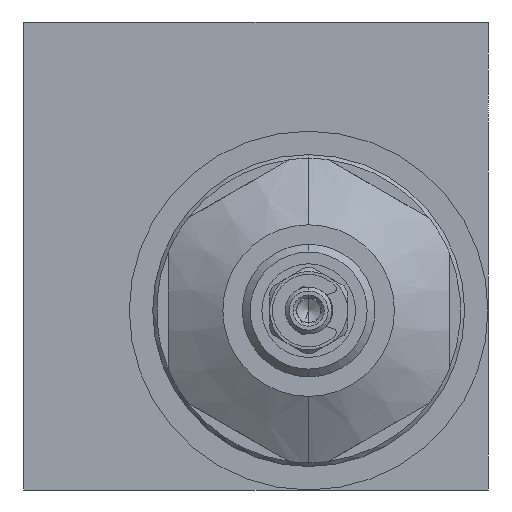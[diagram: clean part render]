
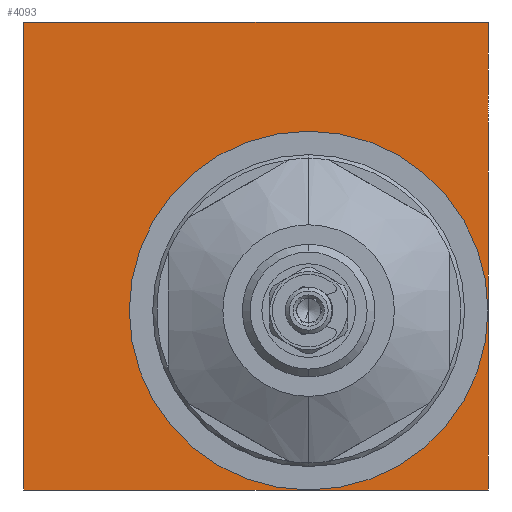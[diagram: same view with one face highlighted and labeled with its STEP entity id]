
A CAD part, left-side view. The second image highlights one B-rep face of the part: STEP entity #4093.
In plain terms, the highlighted planar face has unit normal (-1, 0, 0).
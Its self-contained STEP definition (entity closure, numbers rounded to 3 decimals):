
#257 = LINE ( 'NONE', #9466, #16114 ) ;
#390 = DIRECTION ( 'NONE',  ( 0., 1., 0. ) ) ;
#904 = AXIS2_PLACEMENT_3D ( 'NONE', #11078, #6266, #16110 ) ;
#1844 = EDGE_CURVE ( 'NONE', #14254, #3935, #13318, .T. ) ;
#1868 = DIRECTION ( 'NONE',  ( 0., 0., 1. ) ) ;
#2631 = VECTOR ( 'NONE', #10540, 1000. ) ;
#3193 = ORIENTED_EDGE ( 'NONE', *, *, #14052, .F. ) ;
#3202 = EDGE_CURVE ( 'NONE', #3935, #11303, #8155, .T. ) ;
#3263 = CIRCLE ( 'NONE', #13294, 23. ) ;
#3774 = CARTESIAN_POINT ( 'NONE',  ( 0., -29.75, 30. ) ) ;
#3842 = EDGE_CURVE ( 'NONE', #11303, #4551, #257, .T. ) ;
#3935 = VERTEX_POINT ( 'NONE', #16599 ) ;
#3961 = CIRCLE ( 'NONE', #904, 23. ) ;
#4093 = ADVANCED_FACE ( 'NONE', ( #13162, #12984 ), #12293, .T. ) ;
#4551 = VERTEX_POINT ( 'NONE', #15585 ) ;
#6266 = DIRECTION ( 'NONE',  ( -1., 0., 0. ) ) ;
#6567 = VERTEX_POINT ( 'NONE', #7157 ) ;
#7157 = CARTESIAN_POINT ( 'NONE',  ( 0., -6.75, 16. ) ) ;
#7823 = DIRECTION ( 'NONE',  ( -1., 0., 0. ) ) ;
#7957 = EDGE_CURVE ( 'NONE', #4551, #14254, #16373, .T. ) ;
#8155 = LINE ( 'NONE', #12371, #2631 ) ;
#9466 = CARTESIAN_POINT ( 'NONE',  ( 0., -29.75, 30. ) ) ;
#9695 = ORIENTED_EDGE ( 'NONE', *, *, #3202, .F. ) ;
#10133 = CARTESIAN_POINT ( 'NONE',  ( 0., -6.75, -7. ) ) ;
#10197 = CARTESIAN_POINT ( 'NONE',  ( 0., 29.75, -30. ) ) ;
#10540 = DIRECTION ( 'NONE',  ( 0., -1., 0. ) ) ;
#10874 = CARTESIAN_POINT ( 'NONE',  ( 0., -6.75, -30. ) ) ;
#11037 = DIRECTION ( 'NONE',  ( 0., 0., -1. ) ) ;
#11078 = CARTESIAN_POINT ( 'NONE',  ( 0., -6.75, -7. ) ) ;
#11121 = ORIENTED_EDGE ( 'NONE', *, *, #1844, .F. ) ;
#11193 = VERTEX_POINT ( 'NONE', #10874 ) ;
#11245 = DIRECTION ( 'NONE',  ( 0., 0., 1. ) ) ;
#11303 = VERTEX_POINT ( 'NONE', #3774 ) ;
#11304 = DIRECTION ( 'NONE',  ( -1., 0., 0. ) ) ;
#11330 = CARTESIAN_POINT ( 'NONE',  ( 0., 29.75, -30. ) ) ;
#11522 = ORIENTED_EDGE ( 'NONE', *, *, #16454, .F. ) ;
#11761 = ORIENTED_EDGE ( 'NONE', *, *, #3842, .F. ) ;
#12293 = PLANE ( 'NONE',  #14302 ) ;
#12371 = CARTESIAN_POINT ( 'NONE',  ( 0., -29.75, 30. ) ) ;
#12465 = EDGE_LOOP ( 'NONE', ( #12823, #11761, #9695, #11121 ) ) ;
#12501 = CARTESIAN_POINT ( 'NONE',  ( 0., 29.75, 30. ) ) ;
#12823 = ORIENTED_EDGE ( 'NONE', *, *, #7957, .F. ) ;
#12984 = FACE_BOUND ( 'NONE', #15358, .T. ) ;
#13162 = FACE_OUTER_BOUND ( 'NONE', #12465, .T. ) ;
#13216 = VECTOR ( 'NONE', #1868, 1000. ) ;
#13294 = AXIS2_PLACEMENT_3D ( 'NONE', #10133, #7823, #16767 ) ;
#13318 = LINE ( 'NONE', #12501, #13216 ) ;
#13468 = CARTESIAN_POINT ( 'NONE',  ( 0., -29.75, -30. ) ) ;
#14052 = EDGE_CURVE ( 'NONE', #6567, #11193, #3263, .T. ) ;
#14089 = VECTOR ( 'NONE', #390, 1000. ) ;
#14254 = VERTEX_POINT ( 'NONE', #10197 ) ;
#14302 = AXIS2_PLACEMENT_3D ( 'NONE', #11330, #11304, #11245 ) ;
#15358 = EDGE_LOOP ( 'NONE', ( #3193, #11522 ) ) ;
#15585 = CARTESIAN_POINT ( 'NONE',  ( 0., -29.75, -30. ) ) ;
#16110 = DIRECTION ( 'NONE',  ( 0., 0., 1. ) ) ;
#16114 = VECTOR ( 'NONE', #11037, 1000. ) ;
#16373 = LINE ( 'NONE', #13468, #14089 ) ;
#16454 = EDGE_CURVE ( 'NONE', #11193, #6567, #3961, .T. ) ;
#16599 = CARTESIAN_POINT ( 'NONE',  ( 0., 29.75, 30. ) ) ;
#16767 = DIRECTION ( 'NONE',  ( 0., 0., 1. ) ) ;
